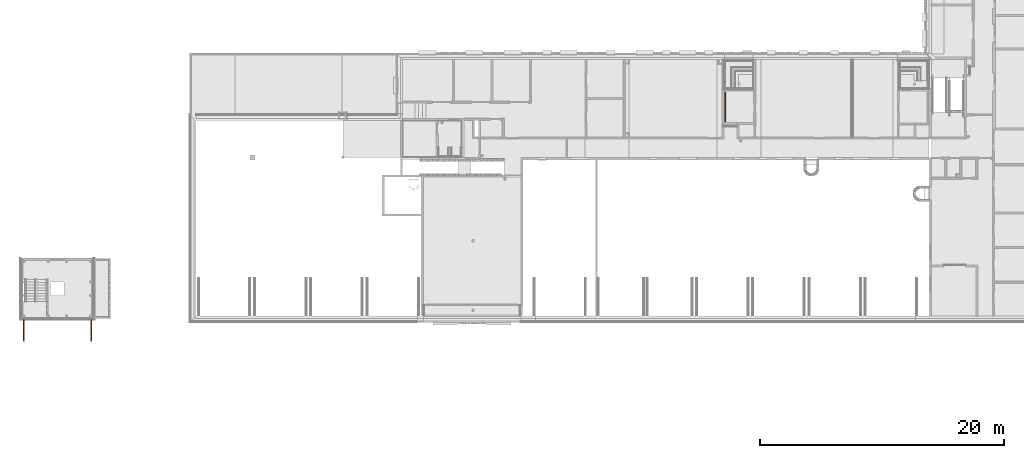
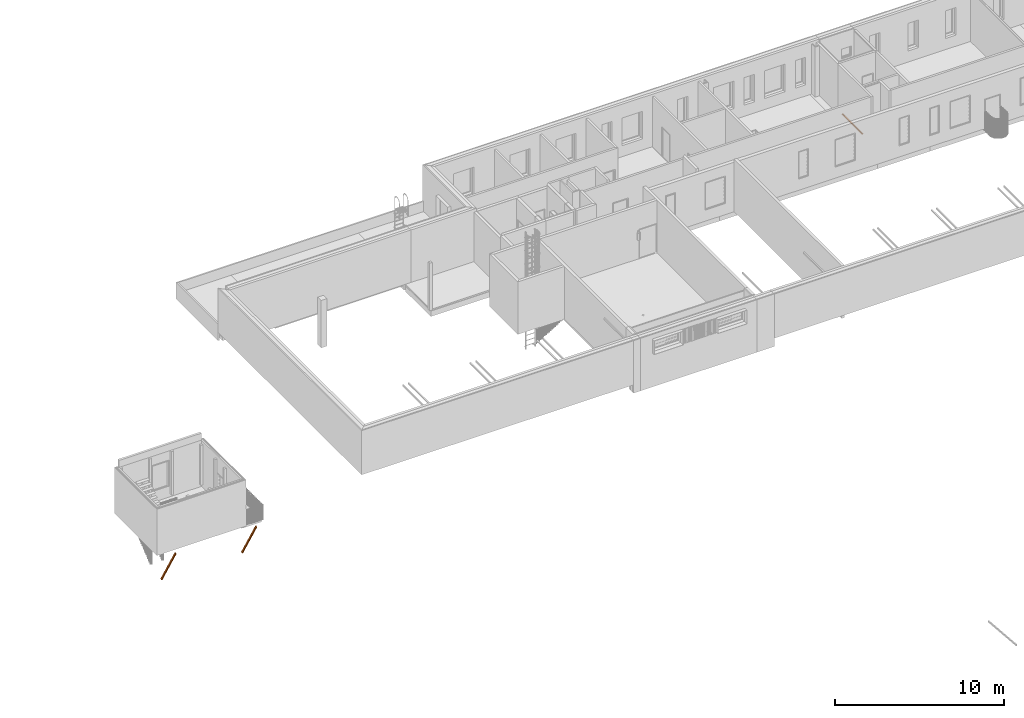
# One storey, part 72 of 100: 3 proxies.
"""IFC2X3 building model written with IfcOpenShell, lengths in millimetres."""

from ifc_helpers import new_model, entity, si_unit, converted_unit, derived_unit, money_unit, direction, frame, origin_with_axes, place, context, subcontext, project, spatial, faceted_brep, source, transform, mapped, material, type_object, element, save


model = new_model("IFC2X3")

# Units and contexts
model_context = context("Model", 3, precision=0.01, world=origin_with_axes(), true_north=direction((0.0, 1.0)))
body_context = subcontext(model_context, "Body", "Model", "MODEL_VIEW")
ifc_project = project(units=[si_unit("LENGTHUNIT", "METRE", prefix="MILLI"), si_unit("AREAUNIT", "SQUARE_METRE"), si_unit("VOLUMEUNIT", "CUBIC_METRE"), converted_unit("PLANEANGLEUNIT", "DEGREE", entity("IfcPlaneAngleMeasure", 0.0174532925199), si_unit("PLANEANGLEUNIT", "RADIAN"), dimensions=[0, 0, 0, 0, 0, 0, 0]), si_unit("SOLIDANGLEUNIT", "STERADIAN"), money_unit("EUR"), converted_unit("TIMEUNIT", "Year", entity("IfcTimeMeasure", 31556926.0), si_unit("TIMEUNIT", "SECOND"), dimensions=[0, 0, 1, 0, 0, 0, 0]), si_unit("MASSUNIT", "GRAM", prefix="KILO"), si_unit("THERMODYNAMICTEMPERATUREUNIT", "DEGREE_CELSIUS"), si_unit("LUMINOUSINTENSITYUNIT", "LUMEN"), si_unit("ENERGYUNIT", "JOULE", prefix="MEGA"), derived_unit("THERMALCONDUCTANCEUNIT", [(si_unit("POWERUNIT", "WATT"), 1), (si_unit("LENGTHUNIT", "METRE"), -1), (si_unit("THERMODYNAMICTEMPERATUREUNIT", "KELVIN"), -1)]), derived_unit("SPECIFICHEATCAPACITYUNIT", [(si_unit("ENERGYUNIT", "JOULE"), 1), (si_unit("MASSUNIT", "GRAM", prefix="KILO"), -1), (si_unit("THERMODYNAMICTEMPERATUREUNIT", "KELVIN"), -1)]), derived_unit("MASSDENSITYUNIT", [(si_unit("MASSUNIT", "GRAM", prefix="KILO"), 1), (si_unit("VOLUMEUNIT", "CUBIC_METRE"), -1)])], contexts=[model_context])

# Site, building, storey
site_placement = place(None, origin_with_axes())
site = spatial("IfcSite", under=ifc_project, at=site_placement, Name="Politse- ja Piirivalveameti ning Päästeameti ühishoone", CompositionType="ELEMENT")
building_placement = place(site_placement, origin_with_axes())
building = spatial("IfcBuilding", under=site, at=building_placement, Name="Politse- ja Piirivalveameti ning Päästeameti ühishoone", CompositionType="ELEMENT")
storey_placement = place(building_placement, frame((0.0, 0.0, 3800.0), z_axis=(0.0, 0.0, 1.0), x_axis=(1.0, 0.0, 0.0)))
storey = spatial("IfcBuildingStorey", under=building, at=storey_placement, Name="Teine korrus", CompositionType="ELEMENT", Elevation=3800.0)

# Proxies
building_element_proxy_type_1 = type_object("IfcBuildingElementProxyType", Name="Grid 23", PredefinedType="NOTDEFINED")
shared_shape_1 = source(origin_with_axes(), body_context, "Body", "Brep", [
    faceted_brep([(0.0, 0.0, 0.0), (5.0, 5.0, 0.0), (5.0, 5.0, 50.0), (0.0, 0.0, 50.0), (0.0, 2400.0, 0.0), (5.0, 2395.0, 0.0), (5.0, 1201.0, 0.0), (5.0, 1199.0, 0.0), (5.0, 1199.0, 50.0), (5.0, 1201.0, 50.0), (5.0, 2395.0, 50.0), (0.0, 2400.0, 50.0)], [[[0, 1, 2, 3]], [[0, 4, 5, 6, 7, 1]], [[1, 7, 8, 2]], [[3, 2, 8, 9, 10, 11]], [[4, 0, 3, 11]], [[5, 4, 11, 10]], [[6, 5, 10, 9]], [[7, 6, 9, 8]]]),
    faceted_brep([(100.0, 2400.0, 0.0), (95.0, 2395.0, 0.0), (95.0, 2395.0, 50.0), (100.0, 2400.0, 50.0), (100.0, 0.0, 0.0), (95.0, 5.0, 0.0), (95.0, 1199.0, 0.0), (95.0, 1201.0, 0.0), (95.0, 1201.0, 50.0), (95.0, 1199.0, 50.0), (95.0, 5.0, 50.0), (100.0, 0.0, 50.0)], [[[0, 1, 2, 3]], [[0, 4, 5, 6, 7, 1]], [[1, 7, 8, 2]], [[3, 2, 8, 9, 10, 11]], [[4, 0, 3, 11]], [[5, 4, 11, 10]], [[6, 5, 10, 9]], [[7, 6, 9, 8]]]),
    faceted_brep([(100.0, 0.0, 0.0), (95.0, 5.0, 0.0), (95.0, 5.0, 50.0), (100.0, 0.0, 50.0), (0.0, 0.0, 0.0), (5.0, 5.0, 0.0), (25.25, 5.0, 0.0), (27.25, 5.0, 0.0), (49.0, 5.0, 0.0), (51.0, 5.0, 0.0), (72.75, 5.0, 0.0), (74.75, 5.0, 0.0), (74.75, 5.0, 50.0), (72.75, 5.0, 50.0), (51.0, 5.0, 50.0), (49.0, 5.0, 50.0), (27.25, 5.0, 50.0), (25.25, 5.0, 50.0), (5.0, 5.0, 50.0), (0.0, 0.0, 50.0)], [[[0, 1, 2, 3]], [[0, 4, 5, 6, 7, 8, 9, 10, 11, 1]], [[1, 11, 12, 2]], [[3, 2, 12, 13, 14, 15, 16, 17, 18, 19]], [[4, 0, 3, 19]], [[5, 4, 19, 18]], [[6, 5, 18, 17]], [[7, 6, 17, 16]], [[8, 7, 16, 15]], [[9, 8, 15, 14]], [[10, 9, 14, 13]], [[11, 10, 13, 12]]]),
    faceted_brep([(0.0, 2400.0, 0.0), (5.0, 2395.0, 0.0), (5.0, 2395.0, 50.0), (0.0, 2400.0, 50.0), (100.0, 2400.0, 0.0), (95.0, 2395.0, 0.0), (74.75, 2395.0, 0.0), (72.75, 2395.0, 0.0), (51.0, 2395.0, 0.0), (49.0, 2395.0, 0.0), (27.25, 2395.0, 0.0), (25.25, 2395.0, 0.0), (25.25, 2395.0, 50.0), (27.25, 2395.0, 50.0), (49.0, 2395.0, 50.0), (51.0, 2395.0, 50.0), (72.75, 2395.0, 50.0), (74.75, 2395.0, 50.0), (95.0, 2395.0, 50.0), (100.0, 2400.0, 50.0)], [[[0, 1, 2, 3]], [[0, 4, 5, 6, 7, 8, 9, 10, 11, 1]], [[1, 11, 12, 2]], [[3, 2, 12, 13, 14, 15, 16, 17, 18, 19]], [[4, 0, 3, 19]], [[5, 4, 19, 18]], [[6, 5, 18, 17]], [[7, 6, 17, 16]], [[8, 7, 16, 15]], [[9, 8, 15, 14]], [[10, 9, 14, 13]], [[11, 10, 13, 12]]]),
    faceted_brep([(25.25, 5.0, 0.0), (27.25, 5.0, 0.0), (27.25, 5.0, 50.0), (25.25, 5.0, 50.0), (25.25, 1199.0, 0.0), (25.25, 1201.0, 0.0), (25.25, 2395.0, 0.0), (27.25, 2395.0, 0.0), (27.25, 1201.0, 0.0), (27.25, 1199.0, 0.0), (27.25, 1199.0, 50.0), (27.25, 1201.0, 50.0), (27.25, 2395.0, 50.0), (25.25, 2395.0, 50.0), (25.25, 1201.0, 50.0), (25.25, 1199.0, 50.0)], [[[0, 1, 2, 3]], [[0, 4, 5, 6, 7, 8, 9, 1]], [[1, 9, 10, 2]], [[3, 2, 10, 11, 12, 13, 14, 15]], [[4, 0, 3, 15]], [[5, 4, 15, 14]], [[6, 5, 14, 13]], [[7, 6, 13, 12]], [[8, 7, 12, 11]], [[9, 8, 11, 10]]]),
    faceted_brep([(49.0, 5.0, 0.0), (51.0, 5.0, 0.0), (51.0, 5.0, 50.0), (49.0, 5.0, 50.0), (49.0, 1199.0, 0.0), (49.0, 1201.0, 0.0), (49.0, 2395.0, 0.0), (51.0, 2395.0, 0.0), (51.0, 1201.0, 0.0), (51.0, 1199.0, 0.0), (51.0, 1199.0, 50.0), (51.0, 1201.0, 50.0), (51.0, 2395.0, 50.0), (49.0, 2395.0, 50.0), (49.0, 1201.0, 50.0), (49.0, 1199.0, 50.0)], [[[0, 1, 2, 3]], [[0, 4, 5, 6, 7, 8, 9, 1]], [[1, 9, 10, 2]], [[3, 2, 10, 11, 12, 13, 14, 15]], [[4, 0, 3, 15]], [[5, 4, 15, 14]], [[6, 5, 14, 13]], [[7, 6, 13, 12]], [[8, 7, 12, 11]], [[9, 8, 11, 10]]]),
    faceted_brep([(72.75, 5.0, 0.0), (74.75, 5.0, 0.0), (74.75, 5.0, 50.0), (72.75, 5.0, 50.0), (72.75, 1199.0, 0.0), (72.75, 1201.0, 0.0), (72.75, 2395.0, 0.0), (74.75, 2395.0, 0.0), (74.75, 1201.0, 0.0), (74.75, 1199.0, 0.0), (74.75, 1199.0, 50.0), (74.75, 1201.0, 50.0), (74.75, 2395.0, 50.0), (72.75, 2395.0, 50.0), (72.75, 1201.0, 50.0), (72.75, 1199.0, 50.0)], [[[0, 1, 2, 3]], [[0, 4, 5, 6, 7, 8, 9, 1]], [[1, 9, 10, 2]], [[3, 2, 10, 11, 12, 13, 14, 15]], [[4, 0, 3, 15]], [[5, 4, 15, 14]], [[6, 5, 14, 13]], [[7, 6, 13, 12]], [[8, 7, 12, 11]], [[9, 8, 11, 10]]]),
    faceted_brep([(25.25, 1199.0, 0.0), (25.25, 1201.0, 0.0), (25.25, 1201.0, 50.0), (25.25, 1199.0, 50.0), (5.0, 1199.0, 0.0), (5.0, 1201.0, 0.0), (5.0, 1201.0, 50.0), (5.0, 1199.0, 50.0)], [[[0, 1, 2, 3]], [[0, 4, 5, 1]], [[1, 5, 6, 2]], [[3, 2, 6, 7]], [[4, 0, 3, 7]], [[5, 4, 7, 6]]]),
    faceted_brep([(49.0, 1199.0, 0.0), (49.0, 1201.0, 0.0), (49.0, 1201.0, 50.0), (49.0, 1199.0, 50.0), (27.25, 1199.0, 0.0), (27.25, 1201.0, 0.0), (27.25, 1201.0, 50.0), (27.25, 1199.0, 50.0)], [[[0, 1, 2, 3]], [[0, 4, 5, 1]], [[1, 5, 6, 2]], [[3, 2, 6, 7]], [[4, 0, 3, 7]], [[5, 4, 7, 6]]]),
    faceted_brep([(72.75, 1199.0, 0.0), (72.75, 1201.0, 0.0), (72.75, 1201.0, 50.0), (72.75, 1199.0, 50.0), (51.0, 1199.0, 0.0), (51.0, 1201.0, 0.0), (51.0, 1201.0, 50.0), (51.0, 1199.0, 50.0)], [[[0, 1, 2, 3]], [[0, 4, 5, 1]], [[1, 5, 6, 2]], [[3, 2, 6, 7]], [[4, 0, 3, 7]], [[5, 4, 7, 6]]]),
    faceted_brep([(95.0, 1199.0, 0.0), (95.0, 1201.0, 0.0), (95.0, 1201.0, 50.0), (95.0, 1199.0, 50.0), (74.75, 1199.0, 0.0), (74.75, 1201.0, 0.0), (74.75, 1201.0, 50.0), (74.75, 1199.0, 50.0)], [[[0, 1, 2, 3]], [[0, 4, 5, 1]], [[1, 5, 6, 2]], [[3, 2, 6, 7]], [[4, 0, 3, 7]], [[5, 4, 7, 6]]]),
    faceted_brep([(5.0, 5.0, 18.65), (25.25, 5.0, 18.65), (25.25, 5.0, 31.35), (5.0, 5.0, 31.35), (5.0, 1199.0, 18.65), (25.25, 1199.0, 18.65), (25.25, 1199.0, 31.35), (5.0, 1199.0, 31.35)], [[[0, 1, 2, 3]], [[0, 4, 5, 1]], [[1, 5, 6, 2]], [[3, 2, 6, 7]], [[4, 0, 3, 7]], [[5, 4, 7, 6]]]),
    faceted_brep([(5.0, 1201.0, 18.65), (25.25, 1201.0, 18.65), (25.25, 1201.0, 31.35), (5.0, 1201.0, 31.35), (5.0, 2395.0, 18.65), (25.25, 2395.0, 18.65), (25.25, 2395.0, 31.35), (5.0, 2395.0, 31.35)], [[[0, 1, 2, 3]], [[0, 4, 5, 1]], [[1, 5, 6, 2]], [[3, 2, 6, 7]], [[4, 0, 3, 7]], [[5, 4, 7, 6]]]),
    faceted_brep([(27.25, 5.0, 18.65), (49.0, 5.0, 18.65), (49.0, 5.0, 31.35), (27.25, 5.0, 31.35), (27.25, 1199.0, 18.65), (49.0, 1199.0, 18.65), (49.0, 1199.0, 31.35), (27.25, 1199.0, 31.35)], [[[0, 1, 2, 3]], [[0, 4, 5, 1]], [[1, 5, 6, 2]], [[3, 2, 6, 7]], [[4, 0, 3, 7]], [[5, 4, 7, 6]]]),
    faceted_brep([(27.25, 1201.0, 18.65), (49.0, 1201.0, 18.65), (49.0, 1201.0, 31.35), (27.25, 1201.0, 31.35), (27.25, 2395.0, 18.65), (49.0, 2395.0, 18.65), (49.0, 2395.0, 31.35), (27.25, 2395.0, 31.35)], [[[0, 1, 2, 3]], [[0, 4, 5, 1]], [[1, 5, 6, 2]], [[3, 2, 6, 7]], [[4, 0, 3, 7]], [[5, 4, 7, 6]]]),
    faceted_brep([(51.0, 5.0, 18.65), (72.75, 5.0, 18.65), (72.75, 5.0, 31.35), (51.0, 5.0, 31.35), (51.0, 1199.0, 18.65), (72.75, 1199.0, 18.65), (72.75, 1199.0, 31.35), (51.0, 1199.0, 31.35)], [[[0, 1, 2, 3]], [[0, 4, 5, 1]], [[1, 5, 6, 2]], [[3, 2, 6, 7]], [[4, 0, 3, 7]], [[5, 4, 7, 6]]]),
    faceted_brep([(51.0, 1201.0, 18.65), (72.75, 1201.0, 18.65), (72.75, 1201.0, 31.35), (51.0, 1201.0, 31.35), (51.0, 2395.0, 18.65), (72.75, 2395.0, 18.65), (72.75, 2395.0, 31.35), (51.0, 2395.0, 31.35)], [[[0, 1, 2, 3]], [[0, 4, 5, 1]], [[1, 5, 6, 2]], [[3, 2, 6, 7]], [[4, 0, 3, 7]], [[5, 4, 7, 6]]]),
    faceted_brep([(74.75, 5.0, 18.65), (95.0, 5.0, 18.65), (95.0, 5.0, 31.35), (74.75, 5.0, 31.35), (74.75, 1199.0, 18.65), (95.0, 1199.0, 18.65), (95.0, 1199.0, 31.35), (74.75, 1199.0, 31.35)], [[[0, 1, 2, 3]], [[0, 4, 5, 1]], [[1, 5, 6, 2]], [[3, 2, 6, 7]], [[4, 0, 3, 7]], [[5, 4, 7, 6]]]),
    faceted_brep([(74.75, 1201.0, 18.65), (95.0, 1201.0, 18.65), (95.0, 1201.0, 31.35), (74.75, 1201.0, 31.35), (74.75, 2395.0, 18.65), (95.0, 2395.0, 18.65), (95.0, 2395.0, 31.35), (74.75, 2395.0, 31.35)], [[[0, 1, 2, 3]], [[0, 4, 5, 1]], [[1, 5, 6, 2]], [[3, 2, 6, 7]], [[4, 0, 3, 7]], [[5, 4, 7, 6]]]),
])
proxy_placement = place(storey_placement, frame((43248.4114692, 15928.9873038, -50.0), z_axis=(0.0, 0.0, 1.0), x_axis=(1.0, 0.0, 0.0)))
element("IfcBuildingElementProxy", 1, at=proxy_placement, inside=storey, type_object=building_element_proxy_type_1, Name="Äravoolurenn (216)", context=body_context, shape_type="MappedRepresentation", body=[
    mapped(shared_shape_1, transform((0.0, 0.0, 0.0))),
])
ifc_material = material(Name="ET-05_Teras")
building_element_proxy_type_2 = type_object("IfcBuildingElementProxyType", Name="RHS Cold-Formed Beam 23", PredefinedType="NOTDEFINED")
shared_shape_2 = source(origin_with_axes(), body_context, "Body", "Brep", [
    faceted_brep([(0.0, -30.0, 0.0), (0.0, 30.0, 0.0), (1660.78079598, 30.0, 2876.55671887), (1660.78079598, -30.0, 2876.55671887), (-2.53652968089, -37.0710678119, 1.46446609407), (-8.66025403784, -40.0, 5.0), (-95.2627944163, -40.0, 55.0), (-101.386518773, -37.0710678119, 58.5355339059), (-103.923048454, -30.0, 60.0), (-103.923048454, 30.0, 60.0), (-101.386518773, 37.0710678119, 58.5355339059), (-95.2627944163, 40.0, 55.0), (-8.66025403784, 40.0, 5.0), (-2.53652968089, 37.0710678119, 1.46446609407), (-4.33012701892, -30.0, 2.5), (-4.33012701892, 30.0, 2.5), (-5.59839185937, 33.5355339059, 3.23223304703), (-8.66025403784, 35.0, 5.0), (-95.2627944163, 35.0, 55.0), (-98.3246565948, 33.5355339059, 56.767766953), (-99.5929214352, 30.0, 57.5), (-99.5929214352, -30.0, 57.5), (-98.3246565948, -33.5355339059, 56.767766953), (-95.2627944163, -35.0, 55.0), (-8.66025403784, -35.0, 5.0), (-5.59839185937, -33.5355339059, 3.23223304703), (1658.2442663, 37.0710678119, 2878.02118496), (1652.12054194, 40.0, 2881.55671887), (1565.51800156, 40.0, 2931.55671887), (1559.3942772, 37.0710678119, 2935.09225277), (1556.85774752, 30.0, 2936.55671887), (1556.85774752, -30.0, 2936.55671887), (1559.3942772, -37.0710678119, 2935.09225277), (1565.51800156, -40.0, 2931.55671887), (1652.12054194, -40.0, 2881.55671887), (1658.2442663, -37.0710678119, 2878.02118496), (1656.45066896, -30.0, 2879.05671887), (1655.18240412, -33.5355339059, 2879.78895191), (1652.12054194, -35.0, 2881.55671887), (1565.51800156, -35.0, 2931.55671887), (1562.45613938, -33.5355339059, 2933.32448582), (1561.18787454, -30.0, 2934.05671887), (1561.18787454, 30.0, 2934.05671887), (1562.45613938, 33.5355339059, 2933.32448582), (1565.51800156, 35.0, 2931.55671887), (1652.12054194, 35.0, 2881.55671887), (1655.18240412, 33.5355339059, 2879.78895191), (1656.45066896, 30.0, 2879.05671887)], [[[0, 1, 2, 3]], [[0, 4, 5, 6, 7, 8, 9, 10, 11, 12, 13, 1], [14, 15, 16, 17, 18, 19, 20, 21, 22, 23, 24, 25]], [[1, 13, 26, 2]], [[3, 2, 26, 27, 28, 29, 30, 31, 32, 33, 34, 35], [36, 37, 38, 39, 40, 41, 42, 43, 44, 45, 46, 47]], [[4, 0, 3, 35]], [[5, 4, 35, 34]], [[6, 5, 34, 33]], [[7, 6, 33, 32]], [[8, 7, 32, 31]], [[9, 8, 31, 30]], [[10, 9, 30, 29]], [[11, 10, 29, 28]], [[12, 11, 28, 27]], [[13, 12, 27, 26]], [[15, 14, 36, 47]], [[16, 15, 47, 46]], [[17, 16, 46, 45]], [[18, 17, 45, 44]], [[19, 18, 44, 43]], [[20, 19, 43, 42]], [[21, 20, 42, 41]], [[22, 21, 41, 40]], [[23, 22, 40, 39]], [[24, 23, 39, 38]], [[25, 24, 38, 37]], [[14, 25, 37, 36]]]),
])
for number, where, z_axis, x_axis in (
    (2, (-8596.00670195, -401.68882367, -2305.48785951), (0.0, 0.0, 1.0), (0.0, -1.0, 0.0)),
    (3, (-14116.4348778, -401.688726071, -2305.48785951), (0.0, 0.0, 1.0), (0.0, -1.0, 0.0)),
):
    element("IfcBuildingElementProxy", number, at=place(storey_placement, frame(where, z_axis=z_axis, x_axis=x_axis)), inside=storey, type_object=building_element_proxy_type_2, material=ifc_material, Name="VARIKATUSE KANDETALA", context=body_context, shape_type="MappedRepresentation", body=[
        mapped(shared_shape_2, transform((0.0, 0.0, 0.0))),
    ])

save(model, "model.ifc")
